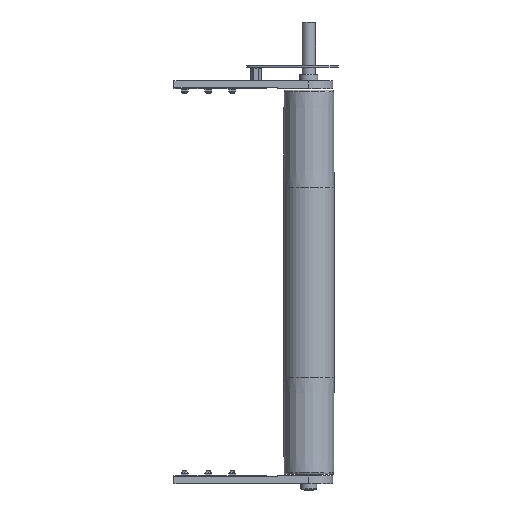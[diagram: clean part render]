
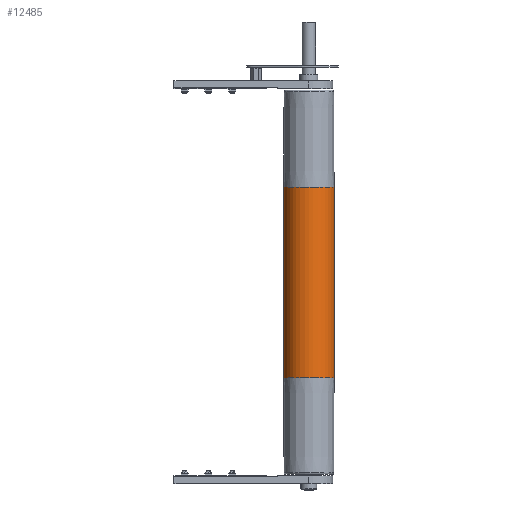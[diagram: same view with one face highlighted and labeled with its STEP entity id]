
A CAD part, front view. The second image highlights one B-rep face of the part: STEP entity #12485.
In plain terms, the highlighted cylindrical face has radius 47.5 mm (diameter 95 mm), a partial arc.
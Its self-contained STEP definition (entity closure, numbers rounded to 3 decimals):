
#67 = CARTESIAN_POINT ( 'NONE',  ( 0., 0., -180. ) ) ;
#68 = DIRECTION ( 'NONE',  ( 0., 0., 1. ) ) ;
#69 = DIRECTION ( 'NONE',  ( 1., 0., 0. ) ) ;
#215 = CARTESIAN_POINT ( 'NONE',  ( 47.5, 0., 360. ) ) ;
#224 = DIRECTION ( 'NONE',  ( 0., 0., -1. ) ) ;
#269 = DIRECTION ( 'NONE',  ( -1., 0., 0. ) ) ;
#270 = DIRECTION ( 'NONE',  ( 0., 0., -1. ) ) ;
#273 = CARTESIAN_POINT ( 'NONE',  ( 0., 0., 360. ) ) ;
#4706 = ORIENTED_EDGE ( 'NONE', *, *, #8764, .F. ) ;
#5457 = VERTEX_POINT ( 'NONE', #16621 ) ;
#5793 = VERTEX_POINT ( 'NONE', #11255 ) ;
#5803 = VERTEX_POINT ( 'NONE', #11265 ) ;
#5906 = VERTEX_POINT ( 'NONE', #11336 ) ;
#8161 = CIRCLE ( 'NONE', #9217, 47.5 ) ;
#8193 = LINE ( 'NONE', #16086, #8198 ) ;
#8198 = VECTOR ( 'NONE', #16088, 1000. ) ;
#8467 = EDGE_CURVE ( 'NONE', #5906, #5803, #8161, .T. ) ;
#8536 = EDGE_CURVE ( 'NONE', #5906, #5457, #8193, .T. ) ;
#8682 = EDGE_CURVE ( 'NONE', #5457, #5793, #10291, .T. ) ;
#8764 = EDGE_CURVE ( 'NONE', #5803, #5793, #10447, .T. ) ;
#8969 = AXIS2_PLACEMENT_3D ( 'NONE', #273, #270, #269 ) ;
#9148 = AXIS2_PLACEMENT_3D ( 'NONE', #67, #68, #69 ) ;
#9217 = AXIS2_PLACEMENT_3D ( 'NONE', #13919, #13920, #13921 ) ;
#10284 = VECTOR ( 'NONE', #224, 1000. ) ;
#10291 = CIRCLE ( 'NONE', #9148, 47.5 ) ;
#10447 = LINE ( 'NONE', #215, #10284 ) ;
#10464 = CYLINDRICAL_SURFACE ( 'NONE', #8969, 47.5 ) ;
#10467 = FACE_OUTER_BOUND ( 'NONE', #12462, .T. ) ;
#11255 = CARTESIAN_POINT ( 'NONE',  ( 47.5, 0., -180. ) ) ;
#11265 = CARTESIAN_POINT ( 'NONE',  ( 47.5, 0., 180. ) ) ;
#11336 = CARTESIAN_POINT ( 'NONE',  ( -47.5, 0., 180. ) ) ;
#12462 = EDGE_LOOP ( 'NONE', ( #4706, #15003, #15191, #14995 ) ) ;
#12485 = ADVANCED_FACE ( 'NONE', ( #10467 ), #10464, .T. ) ;
#13919 = CARTESIAN_POINT ( 'NONE',  ( 0., 0., 180. ) ) ;
#13920 = DIRECTION ( 'NONE',  ( 0., 0., 1. ) ) ;
#13921 = DIRECTION ( 'NONE',  ( 1., 0., 0. ) ) ;
#14995 = ORIENTED_EDGE ( 'NONE', *, *, #8682, .T. ) ;
#15003 = ORIENTED_EDGE ( 'NONE', *, *, #8467, .F. ) ;
#15191 = ORIENTED_EDGE ( 'NONE', *, *, #8536, .T. ) ;
#16086 = CARTESIAN_POINT ( 'NONE',  ( -47.5, 0., 360. ) ) ;
#16088 = DIRECTION ( 'NONE',  ( 0., 0., -1. ) ) ;
#16621 = CARTESIAN_POINT ( 'NONE',  ( -47.5, 0., -180. ) ) ;
